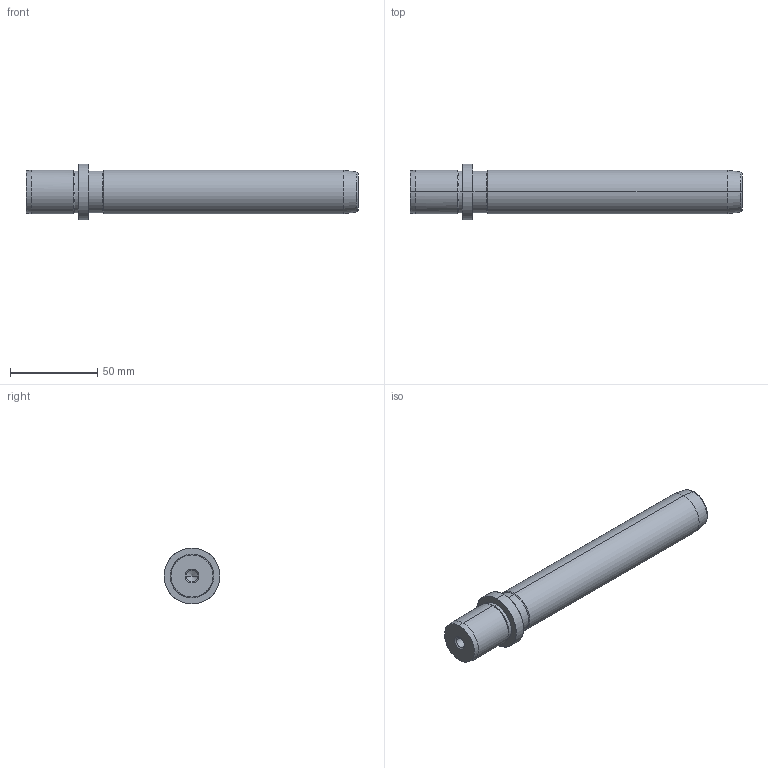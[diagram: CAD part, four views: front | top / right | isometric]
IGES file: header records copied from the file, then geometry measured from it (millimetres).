
Start section: START RECORD GO HERE.
Global section: file name: 719-25x160.igs; native system: DASSAULT SYSTEMES CATIA V5 R20 - www.3ds.com; preprocessor: CATIA Version 5 Release 20 ; author: Utente; organization: NB04-ASUS; date: 20210103.172152; units: millimetre
Bounding box: 190 x 32 x 32 mm (x, y, z)
Surface area: 17558.9 mm2 (no closed solid volume)
Topology: 0 solids, 0 shells, 36 faces, 196 edges, 192 vertices
Faces by surface type: revolution 32, plane 4
